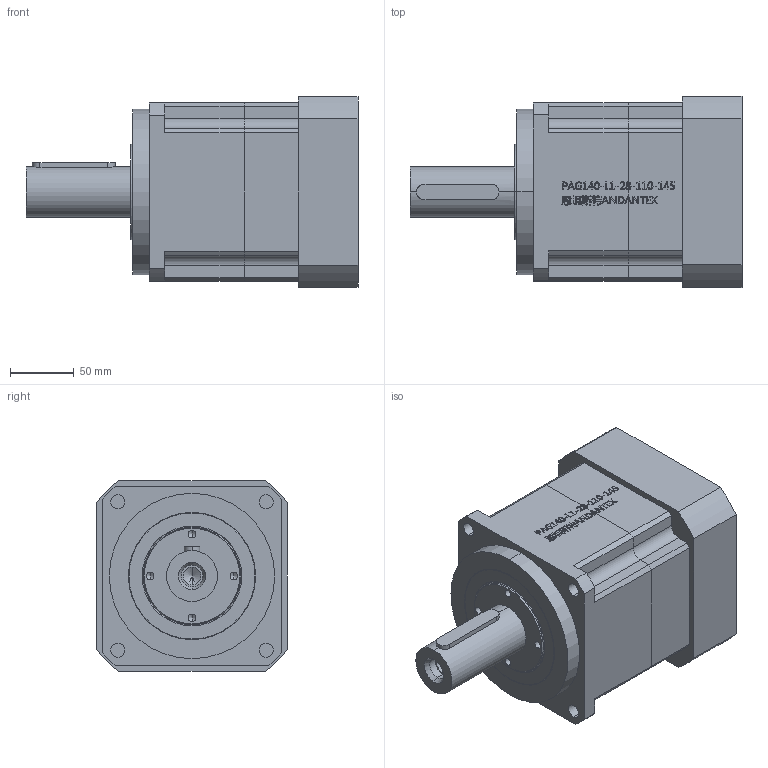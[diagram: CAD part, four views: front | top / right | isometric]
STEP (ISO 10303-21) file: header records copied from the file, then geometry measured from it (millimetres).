
FILE_DESCRIPTION (( 'STEP AP203' ), '1' );
FILE_NAME ('PAG140-L1-28-110-145.STEP', '2023-06-05T05:53:49', ( 'Windows User' ), ( 'P R C' ), 'SwSTEP 2.0', 'SolidWorks 2016', '' );
FILE_SCHEMA (( 'CONFIG_CONTROL_DESIGN' ));
Length unit declared in the file: millimetre
Products named in the file (8): TC75-100-10_TC-34.9-55-7_1; TC70-95-8_TC-34.9-55-7_1; 内六角螺丝-M10×30_1; PAG140-L1-28-110-145; PM140 蟀諉啣 150選 110x10 145xM8 47L_1; PX140奻裔啣_1; 邧埴瑩 12x8x65_1; PX140狟裔啣-28_1
Assembly tree (7 placements, depth 2):
  PAG140-L1-28-110-145
    PX140奻裔啣_1
    PX140狟裔啣-28_1
    PM140 蟀諉啣 150選 110x10 145xM8 47L_1
    邧埴瑩 12x8x65_1
    TC75-100-10_TC-34.9-55-7_1
    TC70-95-8_TC-34.9-55-7_1
    内六角螺丝-M10×30_1
Bounding box: 261 x 150 x 150 mm (x, y, z)
Volume: 3082462.2 mm3; surface area: 313046.5 mm2
Topology: 7 solids, 7 shells, 940 faces, 2481 edges, 1624 vertices
Faces by surface type: plane 557, cylinder 166, bspline 143, cone 42, torus 32
Entity records: 35290 total; most frequent: CARTESIAN_POINT 11762, ORIENTED_EDGE 4926, DIRECTION 4230, EDGE_CURVE 2463, LINE 1718, VECTOR 1718, VERTEX_POINT 1624, AXIS2_PLACEMENT_3D 1256
